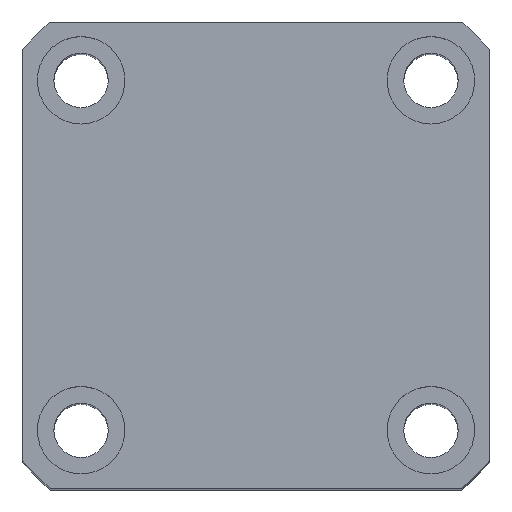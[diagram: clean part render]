
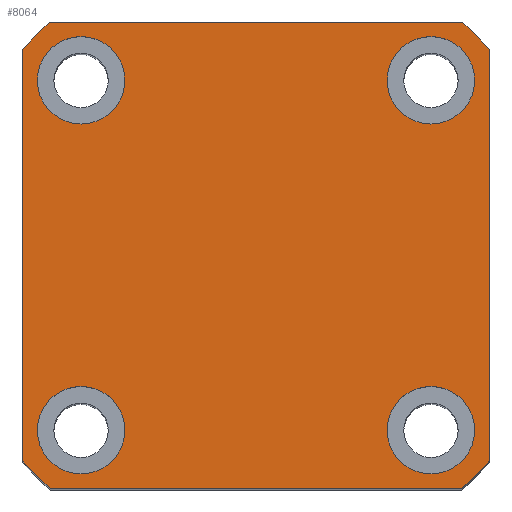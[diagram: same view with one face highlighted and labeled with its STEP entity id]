
A CAD part, top view. The second image highlights one B-rep face of the part: STEP entity #8064.
In plain terms, the highlighted planar face has unit normal (0, 0, 1) as drawn and (1, 0, 0) by its records, which use the part's own axes.
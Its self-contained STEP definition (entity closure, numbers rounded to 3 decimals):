
#13 = ORIENTED_EDGE ( 'NONE', *, *, #1780, .F. ) ;
#74 = ORIENTED_EDGE ( 'NONE', *, *, #6836, .T. ) ;
#76 = DIRECTION ( 'NONE',  ( 1., 0., 0. ) ) ;
#80 = CARTESIAN_POINT ( 'NONE',  ( 90., 18., -22.5 ) ) ;
#107 = CIRCLE ( 'NONE', #3164, 4.5 ) ;
#214 = ORIENTED_EDGE ( 'NONE', *, *, #7817, .T. ) ;
#298 = CARTESIAN_POINT ( 'NONE',  ( 90., -18., 18. ) ) ;
#353 = CARTESIAN_POINT ( 'NONE',  ( 90., 21.166, -24. ) ) ;
#499 = DIRECTION ( 'NONE',  ( 0., 0., -1. ) ) ;
#504 = EDGE_CURVE ( 'NONE', #758, #5231, #5294, .T. ) ;
#537 = CARTESIAN_POINT ( 'NONE',  ( 90., 18., 22.5 ) ) ;
#583 = CARTESIAN_POINT ( 'NONE',  ( 90., 24., 24. ) ) ;
#596 = AXIS2_PLACEMENT_3D ( 'NONE', #6898, #6932, #7436 ) ;
#668 = EDGE_LOOP ( 'NONE', ( #7588, #13 ) ) ;
#758 = VERTEX_POINT ( 'NONE', #10503 ) ;
#797 = CARTESIAN_POINT ( 'NONE',  ( 90., 0., 0. ) ) ;
#875 = DIRECTION ( 'NONE',  ( 0., 0., -1. ) ) ;
#916 = ORIENTED_EDGE ( 'NONE', *, *, #4779, .T. ) ;
#919 = EDGE_CURVE ( 'NONE', #7674, #6406, #6206, .T. ) ;
#933 = CARTESIAN_POINT ( 'NONE',  ( 90., -18., 22.5 ) ) ;
#1050 = CARTESIAN_POINT ( 'NONE',  ( 90., -18., -18. ) ) ;
#1120 = DIRECTION ( 'NONE',  ( 0., 0., -1. ) ) ;
#1175 = EDGE_CURVE ( 'NONE', #8002, #6026, #2726, .T. ) ;
#1205 = VERTEX_POINT ( 'NONE', #8696 ) ;
#1263 = DIRECTION ( 'NONE',  ( 1., 0., 0. ) ) ;
#1326 = EDGE_LOOP ( 'NONE', ( #2885, #8228 ) ) ;
#1344 = CARTESIAN_POINT ( 'NONE',  ( 90., 24., -21.166 ) ) ;
#1424 = DIRECTION ( 'NONE',  ( 0., -1., 0. ) ) ;
#1509 = CIRCLE ( 'NONE', #4823, 32. ) ;
#1636 = DIRECTION ( 'NONE',  ( 0., 0., -1. ) ) ;
#1780 = EDGE_CURVE ( 'NONE', #5629, #8329, #107, .T. ) ;
#1856 = CARTESIAN_POINT ( 'NONE',  ( 90., -18., -22.5 ) ) ;
#1890 = DIRECTION ( 'NONE',  ( 0., 0., -1. ) ) ;
#1992 = VERTEX_POINT ( 'NONE', #2147 ) ;
#2008 = AXIS2_PLACEMENT_3D ( 'NONE', #797, #6611, #1636 ) ;
#2147 = CARTESIAN_POINT ( 'NONE',  ( 90., 24., 21.166 ) ) ;
#2187 = ORIENTED_EDGE ( 'NONE', *, *, #3986, .F. ) ;
#2220 = ORIENTED_EDGE ( 'NONE', *, *, #919, .T. ) ;
#2392 = VERTEX_POINT ( 'NONE', #9324 ) ;
#2422 = VERTEX_POINT ( 'NONE', #5962 ) ;
#2608 = ORIENTED_EDGE ( 'NONE', *, *, #10133, .F. ) ;
#2614 = EDGE_CURVE ( 'NONE', #2392, #7674, #9931, .T. ) ;
#2668 = ORIENTED_EDGE ( 'NONE', *, *, #8911, .T. ) ;
#2692 = CARTESIAN_POINT ( 'NONE',  ( 90., 18., -18. ) ) ;
#2726 = CIRCLE ( 'NONE', #596, 4.5 ) ;
#2873 = ORIENTED_EDGE ( 'NONE', *, *, #504, .F. ) ;
#2885 = ORIENTED_EDGE ( 'NONE', *, *, #7376, .F. ) ;
#2994 = ORIENTED_EDGE ( 'NONE', *, *, #9776, .T. ) ;
#3005 = VERTEX_POINT ( 'NONE', #10256 ) ;
#3101 = FACE_BOUND ( 'NONE', #6698, .T. ) ;
#3149 = DIRECTION ( 'NONE',  ( 0., 1., 0. ) ) ;
#3164 = AXIS2_PLACEMENT_3D ( 'NONE', #5659, #7385, #8000 ) ;
#3299 = DIRECTION ( 'NONE',  ( 1., 0., 0. ) ) ;
#3369 = LINE ( 'NONE', #6295, #9964 ) ;
#3513 = DIRECTION ( 'NONE',  ( 0., 0., -1. ) ) ;
#3793 = CARTESIAN_POINT ( 'NONE',  ( 90., 18., 18. ) ) ;
#3804 = AXIS2_PLACEMENT_3D ( 'NONE', #298, #6078, #1120 ) ;
#3892 = ORIENTED_EDGE ( 'NONE', *, *, #6739, .F. ) ;
#3986 = EDGE_CURVE ( 'NONE', #5231, #758, #9930, .T. ) ;
#4469 = DIRECTION ( 'NONE',  ( 1., 0., 0. ) ) ;
#4470 = DIRECTION ( 'NONE',  ( 1., 0., 0. ) ) ;
#4599 = DIRECTION ( 'NONE',  ( 0., 0., -1. ) ) ;
#4647 = CARTESIAN_POINT ( 'NONE',  ( 90., 24., 24. ) ) ;
#4738 = VERTEX_POINT ( 'NONE', #1344 ) ;
#4779 = EDGE_CURVE ( 'NONE', #4738, #1992, #5395, .T. ) ;
#4823 = AXIS2_PLACEMENT_3D ( 'NONE', #8278, #3299, #9104 ) ;
#5040 = CARTESIAN_POINT ( 'NONE',  ( 90., 0., 0. ) ) ;
#5044 = FACE_OUTER_BOUND ( 'NONE', #9575, .T. ) ;
#5125 = CIRCLE ( 'NONE', #8935, 4.5 ) ;
#5144 = EDGE_CURVE ( 'NONE', #8329, #5629, #10669, .T. ) ;
#5231 = VERTEX_POINT ( 'NONE', #933 ) ;
#5250 = CARTESIAN_POINT ( 'NONE',  ( 90., 18., 13.5 ) ) ;
#5294 = CIRCLE ( 'NONE', #6017, 4.5 ) ;
#5395 = LINE ( 'NONE', #4647, #10056 ) ;
#5450 = CARTESIAN_POINT ( 'NONE',  ( 90., -18., -13.5 ) ) ;
#5551 = CIRCLE ( 'NONE', #9089, 4.5 ) ;
#5558 = FACE_BOUND ( 'NONE', #1326, .T. ) ;
#5606 = AXIS2_PLACEMENT_3D ( 'NONE', #5040, #76, #5874 ) ;
#5618 = EDGE_LOOP ( 'NONE', ( #2608, #3892 ) ) ;
#5629 = VERTEX_POINT ( 'NONE', #5450 ) ;
#5659 = CARTESIAN_POINT ( 'NONE',  ( 90., -18., -18. ) ) ;
#5839 = ORIENTED_EDGE ( 'NONE', *, *, #5932, .T. ) ;
#5874 = DIRECTION ( 'NONE',  ( 0., 0., -1. ) ) ;
#5932 = EDGE_CURVE ( 'NONE', #1992, #1205, #1509, .T. ) ;
#5962 = CARTESIAN_POINT ( 'NONE',  ( 90., -24., 21.166 ) ) ;
#6017 = AXIS2_PLACEMENT_3D ( 'NONE', #9278, #8464, #875 ) ;
#6026 = VERTEX_POINT ( 'NONE', #80 ) ;
#6078 = DIRECTION ( 'NONE',  ( 1., 0., 0. ) ) ;
#6085 = VECTOR ( 'NONE', #1424, 1000. ) ;
#6163 = VERTEX_POINT ( 'NONE', #5250 ) ;
#6206 = LINE ( 'NONE', #6346, #8673 ) ;
#6221 = CARTESIAN_POINT ( 'NONE',  ( 90., 18., 18. ) ) ;
#6295 = CARTESIAN_POINT ( 'NONE',  ( 90., -24., 24. ) ) ;
#6346 = CARTESIAN_POINT ( 'NONE',  ( 90., 24., -24. ) ) ;
#6406 = VERTEX_POINT ( 'NONE', #353 ) ;
#6611 = DIRECTION ( 'NONE',  ( 1., 0., 0. ) ) ;
#6698 = EDGE_LOOP ( 'NONE', ( #2873, #2187 ) ) ;
#6739 = EDGE_CURVE ( 'NONE', #10160, #6163, #5125, .T. ) ;
#6751 = CIRCLE ( 'NONE', #2008, 32. ) ;
#6836 = EDGE_CURVE ( 'NONE', #2422, #2392, #3369, .T. ) ;
#6852 = DIRECTION ( 'NONE',  ( 1., 0., 0. ) ) ;
#6898 = CARTESIAN_POINT ( 'NONE',  ( 90., 18., -18. ) ) ;
#6932 = DIRECTION ( 'NONE',  ( 1., 0., 0. ) ) ;
#7067 = DIRECTION ( 'NONE',  ( 0., 0., -1. ) ) ;
#7237 = CIRCLE ( 'NONE', #5606, 32. ) ;
#7248 = FACE_BOUND ( 'NONE', #5618, .T. ) ;
#7376 = EDGE_CURVE ( 'NONE', #6026, #8002, #9067, .T. ) ;
#7385 = DIRECTION ( 'NONE',  ( 1., 0., 0. ) ) ;
#7436 = DIRECTION ( 'NONE',  ( 0., 0., -1. ) ) ;
#7527 = FACE_BOUND ( 'NONE', #668, .T. ) ;
#7588 = ORIENTED_EDGE ( 'NONE', *, *, #5144, .F. ) ;
#7668 = CARTESIAN_POINT ( 'NONE',  ( 90., 18., -13.5 ) ) ;
#7674 = VERTEX_POINT ( 'NONE', #9655 ) ;
#7817 = EDGE_CURVE ( 'NONE', #6406, #4738, #6751, .T. ) ;
#7914 = AXIS2_PLACEMENT_3D ( 'NONE', #9381, #4469, #10260 ) ;
#8000 = DIRECTION ( 'NONE',  ( 0., 0., -1. ) ) ;
#8002 = VERTEX_POINT ( 'NONE', #7668 ) ;
#8064 = ADVANCED_FACE ( 'NONE', ( #7527, #3101, #5558, #7248, #5044 ), #9445, .T. ) ;
#8228 = ORIENTED_EDGE ( 'NONE', *, *, #1175, .F. ) ;
#8278 = CARTESIAN_POINT ( 'NONE',  ( 90., 0., 0. ) ) ;
#8291 = LINE ( 'NONE', #583, #6085 ) ;
#8329 = VERTEX_POINT ( 'NONE', #1856 ) ;
#8464 = DIRECTION ( 'NONE',  ( 1., 0., 0. ) ) ;
#8484 = DIRECTION ( 'NONE',  ( 1., 0., 0. ) ) ;
#8530 = AXIS2_PLACEMENT_3D ( 'NONE', #9446, #4470, #10261 ) ;
#8673 = VECTOR ( 'NONE', #3149, 1000. ) ;
#8696 = CARTESIAN_POINT ( 'NONE',  ( 90., 21.166, 24. ) ) ;
#8911 = EDGE_CURVE ( 'NONE', #3005, #2422, #7237, .T. ) ;
#8935 = AXIS2_PLACEMENT_3D ( 'NONE', #6221, #1263, #7067 ) ;
#9067 = CIRCLE ( 'NONE', #9076, 4.5 ) ;
#9076 = AXIS2_PLACEMENT_3D ( 'NONE', #2692, #8484, #3513 ) ;
#9089 = AXIS2_PLACEMENT_3D ( 'NONE', #3793, #9570, #4599 ) ;
#9104 = DIRECTION ( 'NONE',  ( 0., 0., -1. ) ) ;
#9278 = CARTESIAN_POINT ( 'NONE',  ( 90., -18., 18. ) ) ;
#9324 = CARTESIAN_POINT ( 'NONE',  ( 90., -24., -21.166 ) ) ;
#9381 = CARTESIAN_POINT ( 'NONE',  ( 90., 0., 0. ) ) ;
#9445 = PLANE ( 'NONE',  #7914 ) ;
#9446 = CARTESIAN_POINT ( 'NONE',  ( 90., 0., 0. ) ) ;
#9570 = DIRECTION ( 'NONE',  ( 1., 0., 0. ) ) ;
#9575 = EDGE_LOOP ( 'NONE', ( #2220, #214, #916, #5839, #2994, #2668, #74, #10197 ) ) ;
#9612 = DIRECTION ( 'NONE',  ( 0., 0., 1. ) ) ;
#9655 = CARTESIAN_POINT ( 'NONE',  ( 90., -21.166, -24. ) ) ;
#9776 = EDGE_CURVE ( 'NONE', #1205, #3005, #8291, .T. ) ;
#9930 = CIRCLE ( 'NONE', #3804, 4.5 ) ;
#9931 = CIRCLE ( 'NONE', #8530, 32. ) ;
#9964 = VECTOR ( 'NONE', #499, 1000. ) ;
#10056 = VECTOR ( 'NONE', #9612, 1000. ) ;
#10133 = EDGE_CURVE ( 'NONE', #6163, #10160, #5551, .T. ) ;
#10160 = VERTEX_POINT ( 'NONE', #537 ) ;
#10197 = ORIENTED_EDGE ( 'NONE', *, *, #2614, .T. ) ;
#10239 = AXIS2_PLACEMENT_3D ( 'NONE', #1050, #6852, #1890 ) ;
#10256 = CARTESIAN_POINT ( 'NONE',  ( 90., -21.166, 24. ) ) ;
#10260 = DIRECTION ( 'NONE',  ( 0., 0., -1. ) ) ;
#10261 = DIRECTION ( 'NONE',  ( 0., 0., -1. ) ) ;
#10503 = CARTESIAN_POINT ( 'NONE',  ( 90., -18., 13.5 ) ) ;
#10669 = CIRCLE ( 'NONE', #10239, 4.5 ) ;
